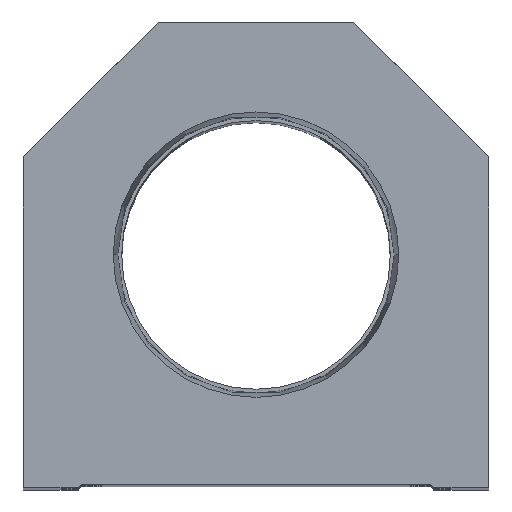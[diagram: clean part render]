
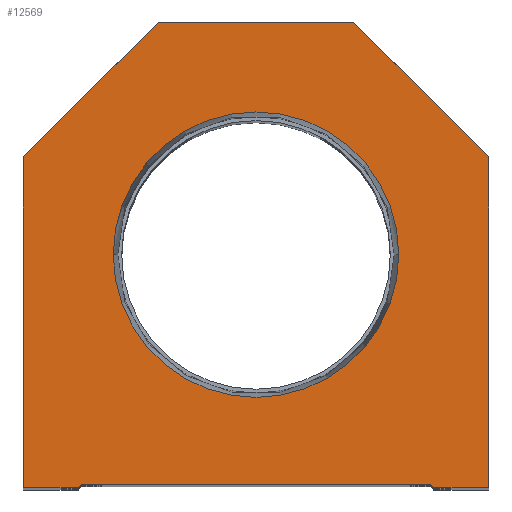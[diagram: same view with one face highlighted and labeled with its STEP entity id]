
A CAD part, top view. The second image highlights one B-rep face of the part: STEP entity #12569.
In plain terms, the highlighted planar face has unit normal (0, 0, 1).
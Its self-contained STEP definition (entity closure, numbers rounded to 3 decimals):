
#205 = DIRECTION ( 'NONE',  ( 1., 0., 0. ) ) ;
#248 = CARTESIAN_POINT ( 'NONE',  ( 29.1, 0., 0. ) ) ;
#448 = ORIENTED_EDGE ( 'NONE', *, *, #14752, .T. ) ;
#492 = DIRECTION ( 'NONE',  ( 1., 0., 0. ) ) ;
#509 = CARTESIAN_POINT ( 'NONE',  ( 28.6, 0., 0. ) ) ;
#559 = CARTESIAN_POINT ( 'NONE',  ( 38.1, 54.1, 0. ) ) ;
#875 = VECTOR ( 'NONE', #5372, 1000. ) ;
#952 = CARTESIAN_POINT ( 'NONE',  ( 38.1, 0., 0. ) ) ;
#1238 = DIRECTION ( 'NONE',  ( 1., 0., 0. ) ) ;
#1312 = VERTEX_POINT ( 'NONE', #3011 ) ;
#1757 = EDGE_LOOP ( 'NONE', ( #5305, #16927, #17877, #12056, #448, #3573, #5256, #11027, #6336, #17109 ) ) ;
#1802 = FACE_OUTER_BOUND ( 'NONE', #1757, .T. ) ;
#1929 = CARTESIAN_POINT ( 'NONE',  ( 16., 76.2, 0. ) ) ;
#2032 = LINE ( 'NONE', #509, #15211 ) ;
#2095 = CARTESIAN_POINT ( 'NONE',  ( 0., 38.1, 0. ) ) ;
#2284 = CARTESIAN_POINT ( 'NONE',  ( 38.1, 54.1, 0. ) ) ;
#2331 = VERTEX_POINT ( 'NONE', #6468 ) ;
#2785 = CARTESIAN_POINT ( 'NONE',  ( -28.6, 0.5, 0. ) ) ;
#3011 = CARTESIAN_POINT ( 'NONE',  ( -23.374, 38.1, 0. ) ) ;
#3181 = PLANE ( 'NONE',  #8608 ) ;
#3289 = DIRECTION ( 'NONE',  ( -0.707, 0.707, 0. ) ) ;
#3506 = DIRECTION ( 'NONE',  ( 1., 0., 0. ) ) ;
#3573 = ORIENTED_EDGE ( 'NONE', *, *, #9512, .T. ) ;
#3641 = CARTESIAN_POINT ( 'NONE',  ( 38.1, 0., 0. ) ) ;
#3705 = VECTOR ( 'NONE', #8105, 1000. ) ;
#3709 = EDGE_CURVE ( 'NONE', #9259, #1312, #6055, .T. ) ;
#4090 = CARTESIAN_POINT ( 'NONE',  ( -28.6, 0., 0. ) ) ;
#4211 = VECTOR ( 'NONE', #1238, 1000. ) ;
#4461 = EDGE_CURVE ( 'NONE', #14080, #5231, #16801, .T. ) ;
#4557 = LINE ( 'NONE', #4738, #13247 ) ;
#4636 = LINE ( 'NONE', #559, #9317 ) ;
#4738 = CARTESIAN_POINT ( 'NONE',  ( -38.1, 0., 0. ) ) ;
#5096 = LINE ( 'NONE', #3641, #12332 ) ;
#5231 = VERTEX_POINT ( 'NONE', #8288 ) ;
#5256 = ORIENTED_EDGE ( 'NONE', *, *, #8313, .T. ) ;
#5305 = ORIENTED_EDGE ( 'NONE', *, *, #4461, .T. ) ;
#5308 = LINE ( 'NONE', #15162, #3705 ) ;
#5372 = DIRECTION ( 'NONE',  ( 0.707, 0.707, 0. ) ) ;
#5673 = CARTESIAN_POINT ( 'NONE',  ( -28.6, 0.5, 0. ) ) ;
#6055 = CIRCLE ( 'NONE', #17895, 23.374 ) ;
#6145 = CARTESIAN_POINT ( 'NONE',  ( 0., 38.1, 0. ) ) ;
#6269 = CARTESIAN_POINT ( 'NONE',  ( 28.6, 0.5, 0. ) ) ;
#6336 = ORIENTED_EDGE ( 'NONE', *, *, #10930, .T. ) ;
#6468 = CARTESIAN_POINT ( 'NONE',  ( 16., 76.2, 0. ) ) ;
#6604 = VERTEX_POINT ( 'NONE', #2284 ) ;
#6775 = LINE ( 'NONE', #18071, #875 ) ;
#6843 = DIRECTION ( 'NONE',  ( 1., 0., 0. ) ) ;
#7194 = CARTESIAN_POINT ( 'NONE',  ( -38.1, 0., 0. ) ) ;
#7235 = EDGE_CURVE ( 'NONE', #2331, #17833, #14611, .T. ) ;
#7237 = DIRECTION ( 'NONE',  ( 1., 0., 0. ) ) ;
#7276 = DIRECTION ( 'NONE',  ( -1., 0., 0. ) ) ;
#7499 = VERTEX_POINT ( 'NONE', #11699 ) ;
#7803 = DIRECTION ( 'NONE',  ( 0., 0., 1. ) ) ;
#7842 = EDGE_CURVE ( 'NONE', #17494, #15498, #5308, .T. ) ;
#7962 = VERTEX_POINT ( 'NONE', #5673 ) ;
#8105 = DIRECTION ( 'NONE',  ( 0.707, -0.707, 0. ) ) ;
#8288 = CARTESIAN_POINT ( 'NONE',  ( -29.1, 0., 0. ) ) ;
#8313 = EDGE_CURVE ( 'NONE', #6604, #2331, #4636, .T. ) ;
#8608 = AXIS2_PLACEMENT_3D ( 'NONE', #10095, #17314, #7237 ) ;
#9259 = VERTEX_POINT ( 'NONE', #9290 ) ;
#9290 = CARTESIAN_POINT ( 'NONE',  ( 23.374, 38.1, 0. ) ) ;
#9317 = VECTOR ( 'NONE', #3289, 1000. ) ;
#9376 = EDGE_CURVE ( 'NONE', #7499, #14080, #4557, .T. ) ;
#9512 = EDGE_CURVE ( 'NONE', #15533, #6604, #5096, .T. ) ;
#9600 = EDGE_CURVE ( 'NONE', #5231, #7962, #6775, .T. ) ;
#9714 = EDGE_LOOP ( 'NONE', ( #17938, #11157 ) ) ;
#10042 = EDGE_CURVE ( 'NONE', #1312, #9259, #11063, .T. ) ;
#10095 = CARTESIAN_POINT ( 'NONE',  ( 0., 0., 0. ) ) ;
#10930 = EDGE_CURVE ( 'NONE', #17833, #7499, #13857, .T. ) ;
#11027 = ORIENTED_EDGE ( 'NONE', *, *, #7235, .T. ) ;
#11042 = CARTESIAN_POINT ( 'NONE',  ( -38.1, 54.1, 0. ) ) ;
#11063 = CIRCLE ( 'NONE', #14930, 23.374 ) ;
#11157 = ORIENTED_EDGE ( 'NONE', *, *, #10042, .F. ) ;
#11520 = DIRECTION ( 'NONE',  ( 0., -1., 0. ) ) ;
#11699 = CARTESIAN_POINT ( 'NONE',  ( -38.1, 54.1, 0. ) ) ;
#11810 = DIRECTION ( 'NONE',  ( 0., 0., 1. ) ) ;
#12056 = ORIENTED_EDGE ( 'NONE', *, *, #7842, .T. ) ;
#12332 = VECTOR ( 'NONE', #16410, 1000. ) ;
#12344 = DIRECTION ( 'NONE',  ( -0.707, -0.707, 0. ) ) ;
#12447 = VECTOR ( 'NONE', #205, 1000. ) ;
#12569 = ADVANCED_FACE ( 'NONE', ( #15854, #1802 ), #3181, .T. ) ;
#13247 = VECTOR ( 'NONE', #11520, 1000. ) ;
#13358 = VECTOR ( 'NONE', #12344, 1000. ) ;
#13857 = LINE ( 'NONE', #11042, #13358 ) ;
#13886 = LINE ( 'NONE', #2785, #4211 ) ;
#14080 = VERTEX_POINT ( 'NONE', #7194 ) ;
#14611 = LINE ( 'NONE', #1929, #15811 ) ;
#14752 = EDGE_CURVE ( 'NONE', #15498, #15533, #2032, .T. ) ;
#14930 = AXIS2_PLACEMENT_3D ( 'NONE', #2095, #7803, #6843 ) ;
#15162 = CARTESIAN_POINT ( 'NONE',  ( 14.55, 14.55, 0. ) ) ;
#15211 = VECTOR ( 'NONE', #3506, 1000. ) ;
#15498 = VERTEX_POINT ( 'NONE', #248 ) ;
#15533 = VERTEX_POINT ( 'NONE', #952 ) ;
#15811 = VECTOR ( 'NONE', #7276, 1000. ) ;
#15854 = FACE_BOUND ( 'NONE', #9714, .T. ) ;
#16156 = EDGE_CURVE ( 'NONE', #7962, #17494, #13886, .T. ) ;
#16410 = DIRECTION ( 'NONE',  ( 0., 1., 0. ) ) ;
#16801 = LINE ( 'NONE', #4090, #12447 ) ;
#16927 = ORIENTED_EDGE ( 'NONE', *, *, #9600, .T. ) ;
#17109 = ORIENTED_EDGE ( 'NONE', *, *, #9376, .T. ) ;
#17314 = DIRECTION ( 'NONE',  ( 0., 0., 1. ) ) ;
#17494 = VERTEX_POINT ( 'NONE', #6269 ) ;
#17833 = VERTEX_POINT ( 'NONE', #18216 ) ;
#17877 = ORIENTED_EDGE ( 'NONE', *, *, #16156, .T. ) ;
#17895 = AXIS2_PLACEMENT_3D ( 'NONE', #6145, #11810, #492 ) ;
#17938 = ORIENTED_EDGE ( 'NONE', *, *, #3709, .F. ) ;
#18071 = CARTESIAN_POINT ( 'NONE',  ( -14.55, 14.55, 0. ) ) ;
#18216 = CARTESIAN_POINT ( 'NONE',  ( -16., 76.2, 0. ) ) ;
